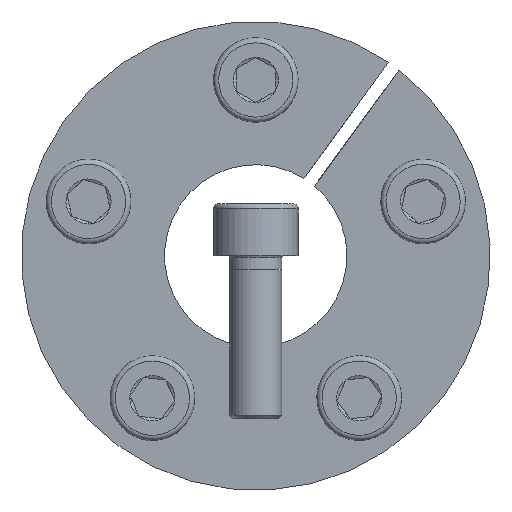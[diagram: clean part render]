
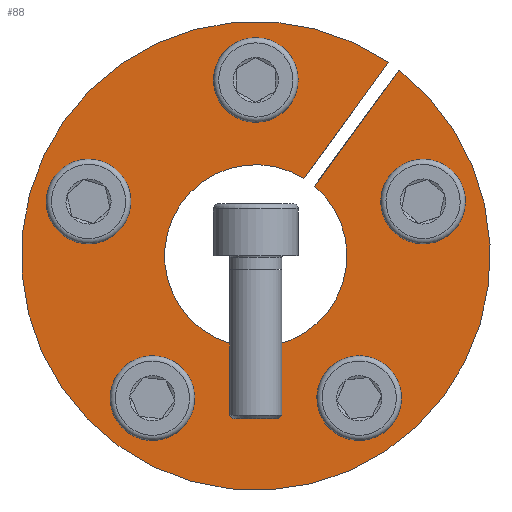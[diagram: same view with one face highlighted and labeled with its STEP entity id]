
A CAD part, front view. The second image highlights one B-rep face of the part: STEP entity #88.
In plain terms, the highlighted planar face has unit normal (0, -1, 0).
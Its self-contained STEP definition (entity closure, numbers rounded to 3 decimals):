
#88 = ADVANCED_FACE( '', ( #184, #185, #186, #187, #188, #189 ), #190, .F. );
#184 = FACE_OUTER_BOUND( '', #304, .T. );
#185 = FACE_BOUND( '', #305, .T. );
#186 = FACE_BOUND( '', #306, .T. );
#187 = FACE_BOUND( '', #307, .T. );
#188 = FACE_BOUND( '', #308, .T. );
#189 = FACE_BOUND( '', #309, .T. );
#190 = PLANE( '', #310 );
#304 = EDGE_LOOP( '', ( #489, #490, #491, #492 ) );
#305 = EDGE_LOOP( '', ( #493 ) );
#306 = EDGE_LOOP( '', ( #494 ) );
#307 = EDGE_LOOP( '', ( #495 ) );
#308 = EDGE_LOOP( '', ( #496 ) );
#309 = EDGE_LOOP( '', ( #497 ) );
#310 = AXIS2_PLACEMENT_3D( '', #498, #499, #500 );
#489 = ORIENTED_EDGE( '', *, *, #679, .T. );
#490 = ORIENTED_EDGE( '', *, *, #690, .T. );
#491 = ORIENTED_EDGE( '', *, *, #691, .T. );
#492 = ORIENTED_EDGE( '', *, *, #692, .F. );
#493 = ORIENTED_EDGE( '', *, *, #693, .F. );
#494 = ORIENTED_EDGE( '', *, *, #694, .F. );
#495 = ORIENTED_EDGE( '', *, *, #653, .F. );
#496 = ORIENTED_EDGE( '', *, *, #670, .F. );
#497 = ORIENTED_EDGE( '', *, *, #695, .F. );
#498 = CARTESIAN_POINT( '', ( 0., 0., 36. ) );
#499 = DIRECTION( '', ( 0., 1., 0. ) );
#500 = DIRECTION( '', ( 1., 0., 0. ) );
#653 = EDGE_CURVE( '', #792, #792, #793, .T. );
#670 = EDGE_CURVE( '', #820, #820, #821, .T. );
#679 = EDGE_CURVE( '', #837, #835, #838, .T. );
#690 = EDGE_CURVE( '', #835, #852, #853, .T. );
#691 = EDGE_CURVE( '', #852, #854, #855, .T. );
#692 = EDGE_CURVE( '', #837, #854, #856, .T. );
#693 = EDGE_CURVE( '', #857, #857, #858, .T. );
#694 = EDGE_CURVE( '', #859, #859, #860, .T. );
#695 = EDGE_CURVE( '', #861, #861, #862, .T. );
#792 = VERTEX_POINT( '', #1051 );
#793 = CIRCLE( '', #1052, 4.5 );
#820 = VERTEX_POINT( '', #1081 );
#821 = CIRCLE( '', #1082, 4.5 );
#835 = VERTEX_POINT( '', #1098 );
#837 = VERTEX_POINT( '', #1101 );
#838 = LINE( '', #1102, #1103 );
#852 = VERTEX_POINT( '', #1129 );
#853 = CIRCLE( '', #1130, 36. );
#854 = VERTEX_POINT( '', #1131 );
#855 = LINE( '', #1132, #1133 );
#856 = CIRCLE( '', #1134, 14. );
#857 = VERTEX_POINT( '', #1135 );
#858 = CIRCLE( '', #1136, 4.5 );
#859 = VERTEX_POINT( '', #1137 );
#860 = CIRCLE( '', #1138, 4.5 );
#861 = VERTEX_POINT( '', #1139 );
#862 = CIRCLE( '', #1140, 4.5 );
#1051 = CARTESIAN_POINT( '', ( 12.23, 0., -24.488 ) );
#1052 = AXIS2_PLACEMENT_3D( '', #1223, #1224, #1225 );
#1081 = CARTESIAN_POINT( '', ( -19.511, 0., -19.198 ) );
#1082 = AXIS2_PLACEMENT_3D( '', #1255, #1256, #1257 );
#1098 = CARTESIAN_POINT( '', ( 20.343, 0., 29.701 ) );
#1101 = CARTESIAN_POINT( '', ( 7.399, 0., 11.885 ) );
#1102 = CARTESIAN_POINT( '', ( 7.399, 0., 11.885 ) );
#1103 = VECTOR( '', #1270, 1000. );
#1129 = CARTESIAN_POINT( '', ( 21.961, 0., 28.526 ) );
#1130 = AXIS2_PLACEMENT_3D( '', #1277, #1278, #1279 );
#1131 = CARTESIAN_POINT( '', ( 9.017, 0., 10.71 ) );
#1132 = CARTESIAN_POINT( '', ( 21.969, 0., 28.537 ) );
#1133 = VECTOR( '', #1280, 1000. );
#1134 = AXIS2_PLACEMENT_3D( '', #1281, #1282, #1283 );
#1135 = CARTESIAN_POINT( '', ( 4.5, 0., 27. ) );
#1136 = AXIS2_PLACEMENT_3D( '', #1284, #1285, #1286 );
#1137 = CARTESIAN_POINT( '', ( 27.069, 0., 4.064 ) );
#1138 = AXIS2_PLACEMENT_3D( '', #1287, #1288, #1289 );
#1139 = CARTESIAN_POINT( '', ( -24.288, 0., 12.623 ) );
#1140 = AXIS2_PLACEMENT_3D( '', #1290, #1291, #1292 );
#1223 = CARTESIAN_POINT( '', ( 15.87, 0., -21.843 ) );
#1224 = DIRECTION( '', ( 0., -1., 0. ) );
#1225 = DIRECTION( '', ( -0.809, 0., -0.588 ) );
#1255 = CARTESIAN_POINT( '', ( -15.87, 0., -21.843 ) );
#1256 = DIRECTION( '', ( 0., -1., 0. ) );
#1257 = DIRECTION( '', ( -0.809, 0., 0.588 ) );
#1270 = DIRECTION( '', ( 0.588, 0., 0.809 ) );
#1277 = CARTESIAN_POINT( '', ( 0., 0., 0. ) );
#1278 = DIRECTION( '', ( 0., -1., 0. ) );
#1279 = DIRECTION( '', ( 0., 0., -1. ) );
#1280 = DIRECTION( '', ( -0.588, 0., -0.809 ) );
#1281 = CARTESIAN_POINT( '', ( 0., 0., 0. ) );
#1282 = DIRECTION( '', ( 0., -1., 0. ) );
#1283 = DIRECTION( '', ( 0., 0., -1. ) );
#1284 = CARTESIAN_POINT( '', ( 0., 0., 27. ) );
#1285 = DIRECTION( '', ( 0., -1., 0. ) );
#1286 = DIRECTION( '', ( 1., 0., 0. ) );
#1287 = CARTESIAN_POINT( '', ( 25.679, 0., 8.343 ) );
#1288 = DIRECTION( '', ( 0., -1., 0. ) );
#1289 = DIRECTION( '', ( 0.309, 0., -0.951 ) );
#1290 = CARTESIAN_POINT( '', ( -25.679, 0., 8.343 ) );
#1291 = DIRECTION( '', ( 0., -1., 0. ) );
#1292 = DIRECTION( '', ( 0.309, 0., 0.951 ) );
